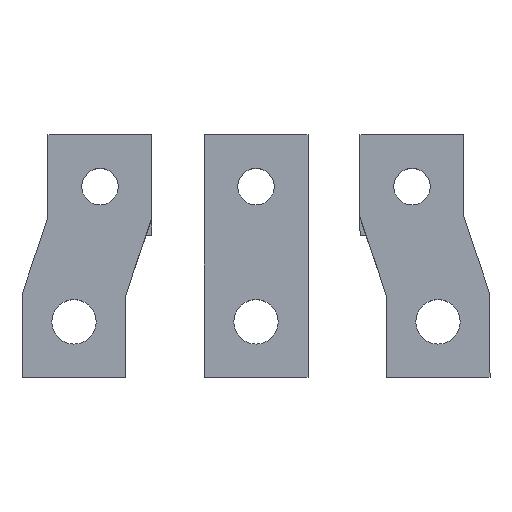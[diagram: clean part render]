
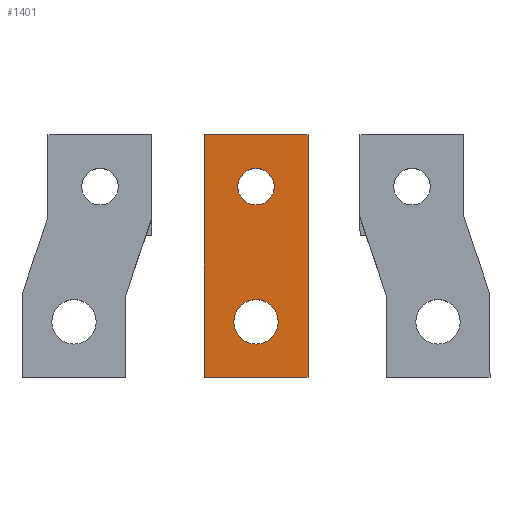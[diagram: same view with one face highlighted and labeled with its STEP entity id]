
A CAD part, top view. The second image highlights one B-rep face of the part: STEP entity #1401.
In plain terms, the highlighted planar face has unit normal (0, 0, 1).
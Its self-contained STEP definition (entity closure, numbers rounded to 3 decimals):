
#17 = CARTESIAN_POINT ( 'NONE',  ( -5.25, -113.496, 44.3 ) ) ;
#169 = EDGE_CURVE ( 'NONE', #1966, #2573, #2441, .T. ) ;
#214 = EDGE_CURVE ( 'NONE', #1509, #1785, #2828, .T. ) ;
#408 = DIRECTION ( 'NONE',  ( 1., 0., 0. ) ) ;
#495 = VERTEX_POINT ( 'NONE', #1764 ) ;
#550 = PLANE ( 'NONE',  #2393 ) ;
#562 = VERTEX_POINT ( 'NONE', #2271 ) ;
#684 = CIRCLE ( 'NONE', #2853, 6.4 ) ;
#687 = CARTESIAN_POINT ( 'NONE',  ( 0., 0., 44.3 ) ) ;
#723 = EDGE_LOOP ( 'NONE', ( #2364, #2437 ) ) ;
#724 = VECTOR ( 'NONE', #1544, 1000. ) ;
#815 = LINE ( 'NONE', #1015, #973 ) ;
#956 = ORIENTED_EDGE ( 'NONE', *, *, #1787, .T. ) ;
#973 = VECTOR ( 'NONE', #3146, 1000. ) ;
#1015 = CARTESIAN_POINT ( 'NONE',  ( -15., -168.496, 44.3 ) ) ;
#1094 = DIRECTION ( 'NONE',  ( 0., -1., 0. ) ) ;
#1122 = DIRECTION ( 'NONE',  ( -1., 0., 0. ) ) ;
#1277 = ORIENTED_EDGE ( 'NONE', *, *, #2198, .F. ) ;
#1280 = CARTESIAN_POINT ( 'NONE',  ( 15., -168.496, 44.3 ) ) ;
#1378 = LINE ( 'NONE', #1280, #724 ) ;
#1387 = VECTOR ( 'NONE', #1122, 1000. ) ;
#1401 = ADVANCED_FACE ( 'NONE', ( #2418, #1513, #2835 ), #550, .T. ) ;
#1434 = DIRECTION ( 'NONE',  ( 1., 0., 0. ) ) ;
#1458 = EDGE_LOOP ( 'NONE', ( #1923, #2848, #2105, #956 ) ) ;
#1509 = VERTEX_POINT ( 'NONE', #2160 ) ;
#1513 = FACE_BOUND ( 'NONE', #723, .T. ) ;
#1515 = CARTESIAN_POINT ( 'NONE',  ( 5.25, -113.496, 44.3 ) ) ;
#1544 = DIRECTION ( 'NONE',  ( 0., 1., 0. ) ) ;
#1566 = DIRECTION ( 'NONE',  ( 0., 0., 1. ) ) ;
#1597 = CARTESIAN_POINT ( 'NONE',  ( 6.4, -152.496, 44.3 ) ) ;
#1605 = EDGE_CURVE ( 'NONE', #562, #2619, #815, .T. ) ;
#1654 = VERTEX_POINT ( 'NONE', #1986 ) ;
#1764 = CARTESIAN_POINT ( 'NONE',  ( -15., -98.496, 44.3 ) ) ;
#1766 = LINE ( 'NONE', #2054, #2417 ) ;
#1785 = VERTEX_POINT ( 'NONE', #1597 ) ;
#1787 = EDGE_CURVE ( 'NONE', #495, #562, #1766, .T. ) ;
#1815 = EDGE_CURVE ( 'NONE', #1654, #495, #2694, .T. ) ;
#1851 = DIRECTION ( 'NONE',  ( 0., 0., 1. ) ) ;
#1882 = DIRECTION ( 'NONE',  ( 0., 0., 1. ) ) ;
#1921 = DIRECTION ( 'NONE',  ( 0., 0., 1. ) ) ;
#1923 = ORIENTED_EDGE ( 'NONE', *, *, #1605, .T. ) ;
#1966 = VERTEX_POINT ( 'NONE', #17 ) ;
#1986 = CARTESIAN_POINT ( 'NONE',  ( 15., -98.496, 44.3 ) ) ;
#2051 = AXIS2_PLACEMENT_3D ( 'NONE', #3074, #1851, #2600 ) ;
#2054 = CARTESIAN_POINT ( 'NONE',  ( -15., -98.496, 44.3 ) ) ;
#2105 = ORIENTED_EDGE ( 'NONE', *, *, #1815, .T. ) ;
#2113 = DIRECTION ( 'NONE',  ( 1., 0., 0. ) ) ;
#2160 = CARTESIAN_POINT ( 'NONE',  ( -6.4, -152.496, 44.3 ) ) ;
#2161 = CARTESIAN_POINT ( 'NONE',  ( 0., -152.496, 44.3 ) ) ;
#2198 = EDGE_CURVE ( 'NONE', #2573, #1966, #2526, .T. ) ;
#2271 = CARTESIAN_POINT ( 'NONE',  ( -15., -168.496, 44.3 ) ) ;
#2318 = DIRECTION ( 'NONE',  ( 1., 0., 0. ) ) ;
#2364 = ORIENTED_EDGE ( 'NONE', *, *, #2516, .F. ) ;
#2387 = DIRECTION ( 'NONE',  ( 0., 0., 1. ) ) ;
#2390 = AXIS2_PLACEMENT_3D ( 'NONE', #2161, #2387, #408 ) ;
#2393 = AXIS2_PLACEMENT_3D ( 'NONE', #687, #1882, #2113 ) ;
#2414 = EDGE_LOOP ( 'NONE', ( #1277, #2527 ) ) ;
#2417 = VECTOR ( 'NONE', #1094, 1000. ) ;
#2418 = FACE_BOUND ( 'NONE', #2414, .T. ) ;
#2437 = ORIENTED_EDGE ( 'NONE', *, *, #214, .F. ) ;
#2441 = CIRCLE ( 'NONE', #2051, 5.25 ) ;
#2449 = CARTESIAN_POINT ( 'NONE',  ( 15., -168.496, 44.3 ) ) ;
#2516 = EDGE_CURVE ( 'NONE', #1785, #1509, #684, .T. ) ;
#2526 = CIRCLE ( 'NONE', #2839, 5.25 ) ;
#2527 = ORIENTED_EDGE ( 'NONE', *, *, #169, .F. ) ;
#2543 = CARTESIAN_POINT ( 'NONE',  ( -5., -98.496, 44.3 ) ) ;
#2546 = CARTESIAN_POINT ( 'NONE',  ( 0., -113.496, 44.3 ) ) ;
#2573 = VERTEX_POINT ( 'NONE', #1515 ) ;
#2600 = DIRECTION ( 'NONE',  ( 1., 0., 0. ) ) ;
#2619 = VERTEX_POINT ( 'NONE', #2449 ) ;
#2682 = CARTESIAN_POINT ( 'NONE',  ( 0., -152.496, 44.3 ) ) ;
#2694 = LINE ( 'NONE', #2543, #1387 ) ;
#2786 = EDGE_CURVE ( 'NONE', #2619, #1654, #1378, .T. ) ;
#2828 = CIRCLE ( 'NONE', #2390, 6.4 ) ;
#2835 = FACE_OUTER_BOUND ( 'NONE', #1458, .T. ) ;
#2839 = AXIS2_PLACEMENT_3D ( 'NONE', #2546, #1566, #2318 ) ;
#2848 = ORIENTED_EDGE ( 'NONE', *, *, #2786, .T. ) ;
#2853 = AXIS2_PLACEMENT_3D ( 'NONE', #2682, #1921, #1434 ) ;
#3074 = CARTESIAN_POINT ( 'NONE',  ( 0., -113.496, 44.3 ) ) ;
#3146 = DIRECTION ( 'NONE',  ( 1., 0., 0. ) ) ;
